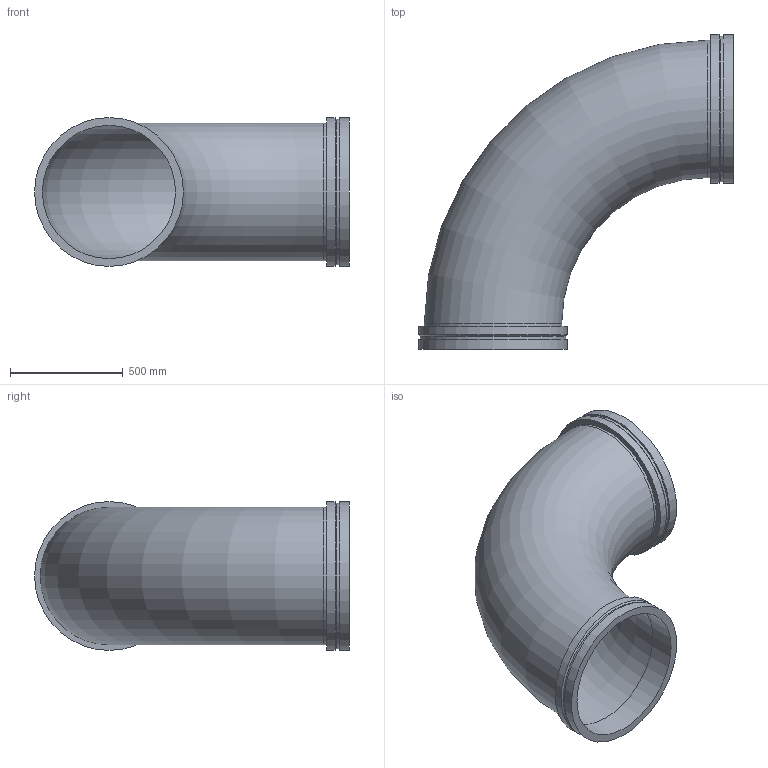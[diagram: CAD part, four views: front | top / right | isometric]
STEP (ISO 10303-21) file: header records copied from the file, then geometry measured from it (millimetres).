
FILE_DESCRIPTION(/* description */ ('VIC 90 DEG ELBOW No W100 VR','CAx-IF Rec.Pracs.---Representation and Presentation of Product Manufacturing Information (PMI)---4.0---2014-10-13'),/* implementation_level */ '2;1');
FILE_NAME(/* name */ 'C:\Users\kkamble\AppData\Roaming\Autodesk\ApplicationPlugins\Back Up\Victaulic_Vic-Ring_Elbow 90 Deg LR_No W100 VR (AGR)\Victaulic_Vic-Ring_Elbow 90 Deg LR_No W100 VR (AGR)_24 (600).stp',/* time_stamp */ '2020-09-10T11:43:57+05:00',/* author */ ('cps_temp'),/* organization */ ('Victaulic'),/* preprocessor_version */ 'ST-DEVELOPER v17.2',/* originating_system */ 'Autodesk Inventor 2019',/* authorisation */ '');
FILE_SCHEMA (('AP242_MANAGED_MODEL_BASED_3D_ENGINEERING_MIM_LF { 1 0 10303 442 1 1 4 }'));
Length unit declared in the file: inch
Products named in the file (1): W100 VR-24.0
Bounding box: 1397 x 1397 x 660.4 mm (x, y, z)
Volume: 40773010.1 mm3; surface area: 6816167.7 mm2
Topology: 1 solids, 1 shells, 20 faces, 51 edges, 37 vertices
Faces by surface type: cylinder 10, plane 6, cone 2, torus 2
Full cylindrical faces by diameter (mm): 590.55 x2, 609.6 x2, 645.922 x2, 660.4 x4
Entity records: 802 total; most frequent: DIRECTION 158, CARTESIAN_POINT 126, ORIENTED_EDGE 102, AXIS2_PLACEMENT_3D 73, EDGE_CURVE 51, CIRCLE 39, VERTEX_POINT 37, EDGE_LOOP 26
